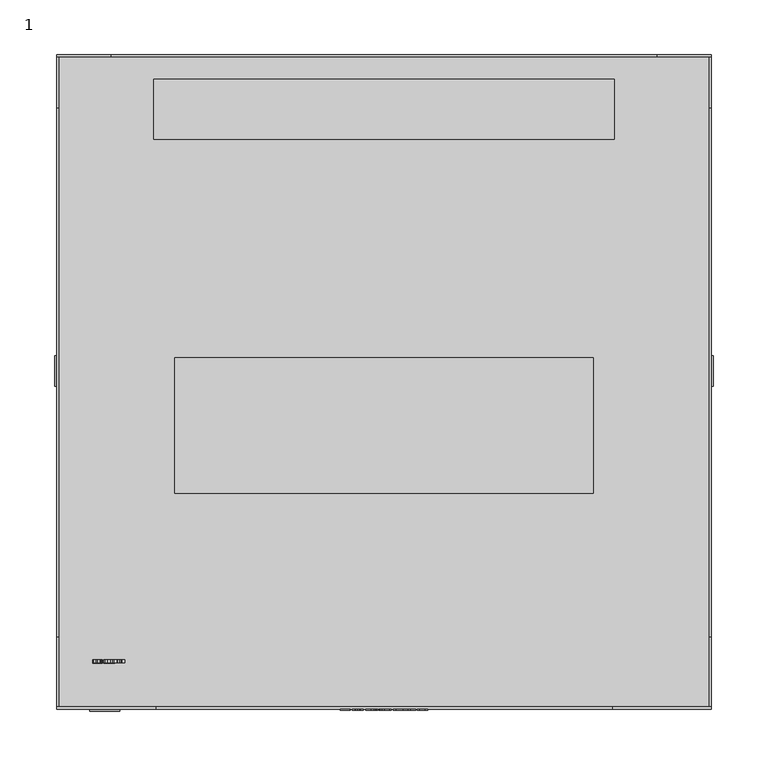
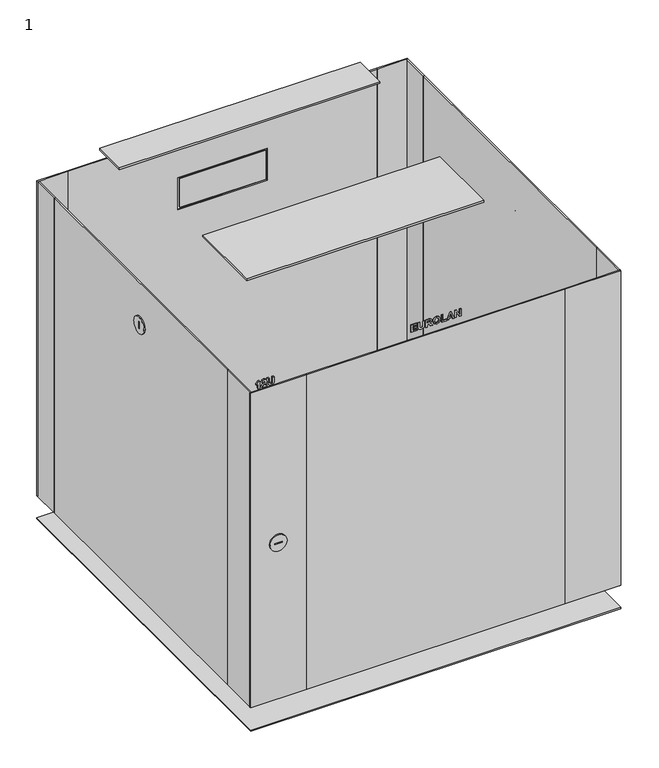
"""IFC4 building model written with IfcOpenShell, lengths in millimetres: proxy geometry, 1 : 12U 600мм стеклянная дверь."""

from ifc_helpers import new_model, si_unit, point, frame, frame_2d, origin, origin_with_axes, place, context, project, spatial, polyline, circle_curve, trimmed, segment, composite_curve, outline, extrude, source, transform, mapped, element, save


def proxy_1_fa444788(model_context):
    return source(origin(), model_context, "Body", "SweptSolid", [
        extrude(outline(polyline([(593.0, -40.3245382), (593.0, -30.9964522), (595.1376864, -30.9964522), (595.1376864, -37.9925167), (598.2470483, -37.9925167), (598.2470483, -31.5794576), (600.3847347, -31.5794576), (600.3847347, -37.9925167), (603.1054264, -37.9925167), (603.1054264, -31.1907874), (605.2431128, -31.1907874), (605.2431128, -40.3245382), (593.0, -40.3245382)])), frame((0.0, -301.0, 0.0), z_axis=(0.0, 1.0, 0.0), x_axis=(0.0, 0.0, 1.0)), (0.0, 0.0, 1.0), 1.0),
        extrude(outline(polyline([(605.2431128, -29.053101), (598.7207402, -29.053101), (595.6174512, -28.8071456), (594.2601418, -28.1026808), (593.2095176, -26.6482039), (592.8056649, -23.9487675), (593.1761162, -21.5575346), (594.173602, -20.0954664), (595.7085458, -19.3454543), (598.8209443, -19.1420097), (605.2431128, -19.1420097), (605.2431128, -21.4740312), (598.4960402, -21.4740312), (596.4236383, -21.5924541), (595.3714958, -22.2923642), (594.9433512, -24.0216432), (595.3973059, -25.7979877), (596.5982363, -26.6208755), (598.6387551, -26.7210795), (605.2431128, -26.7210795), (605.2431128, -29.053101)])), frame((0.0, -301.0, 0.0), z_axis=(0.0, 1.0, 0.0), x_axis=(0.0, 0.0, 1.0)), (0.0, 0.0, 1.0), 1.0),
        extrude(outline(polyline([(593.0, -16.8099882), (593.0, -14.4779667), (598.0527132, -13.9435451), (597.9251808, -12.6120459), (597.4560437, -11.8164865), (595.7966039, -10.4242575), (593.0, -8.6509495), (593.0, -5.9272213), (595.3745323, -7.424209), (597.3512849, -8.7238252), (598.3715443, -9.9475291), (599.5071902, -7.6625732), (601.7936644, -6.8988969), (603.7339791, -7.4272455), (604.9121358, -8.8361752), (605.2431128, -11.6601074), (605.2431128, -16.8099882), (593.0, -16.8099882)]), holes=[polyline([(600.1903996, -14.4779667), (603.1054264, -14.4779667), (603.1054264, -12.4495939), (603.0659521, -10.5548264), (602.6150339, -9.5770778), (601.6782779, -9.2309184), (600.817434, -9.4935744), (600.3315962, -10.2223312), (600.1903996, -12.5558709), (600.1903996, -14.4779667)])]), frame((0.0, -301.0, 0.0), z_axis=(0.0, 1.0, 0.0), x_axis=(0.0, 0.0, 1.0)), (0.0, 0.0, 1.0), 1.0),
        extrude(outline(polyline([(599.0456442, -4.9555457), (594.4681411, -3.3735363), (592.8056649, 0.8896905), (594.4757323, 5.1225524), (599.106374, 6.7045618), (603.7628257, 5.1104065), (605.4374479, 0.8593256), (604.9546466, -1.7338337), (603.8539203, -3.2869964), (602.1792981, -4.4059416), (599.0456442, -4.9555457)]), holes=[polyline([(599.1306659, -2.6235242), (602.2612832, -1.6579215), (603.2997616, 0.886654), (602.2734292, 3.4190836), (599.1640672, 4.3725403), (595.9985302, 3.3932735), (594.9433512, 0.886654), (596.0061214, -1.6321114), (599.1306659, -2.6235242)])]), frame((0.0, -301.0, 0.0), z_axis=(0.0, 1.0, 0.0), x_axis=(0.0, 0.0, 1.0)), (0.0, 0.0, 1.0), 1.0),
        extrude(outline(polyline([(593.0, 8.647913), (593.0, 17.1986585), (595.1376864, 17.1986585), (595.1376864, 10.9799345), (605.2431128, 10.9799345), (605.2431128, 8.647913), (593.0, 8.647913)])), frame((0.0, -301.0, 0.0), z_axis=(0.0, 1.0, 0.0), x_axis=(0.0, 0.0, 1.0)), (0.0, 0.0, 1.0), 1.0),
        extrude(outline(polyline([(593.0, 29.2474361), (605.2431128, 24.7352175), (605.2431128, 22.2513717), (593.0, 17.7816638), (593.0, 20.2655096), (595.7206917, 21.2128934), (595.7206917, 25.837462), (593.0, 26.7969917), (593.0, 29.2474361)]), holes=[polyline([(597.8583781, 25.0904864), (597.8583781, 21.959869), (602.3280859, 23.51455), (597.8583781, 25.0904864)])]), frame((0.0, -301.0, 0.0), z_axis=(0.0, 1.0, 0.0), x_axis=(0.0, 0.0, 1.0)), (0.0, 0.0, 1.0), 1.0),
        extrude(outline(polyline([(593.0, 30.4134469), (593.0, 32.7454684), (601.1195644, 32.7454684), (593.0, 37.8042546), (593.0, 40.3245382), (605.2431128, 40.3245382), (605.2431128, 37.9925167), (597.002089, 37.9925167), (605.2431128, 32.8578184), (605.2431128, 30.4134469), (593.0, 30.4134469)])), frame((0.0, -301.0, 0.0), z_axis=(0.0, 1.0, 0.0), x_axis=(0.0, 0.0, 1.0)), (0.0, 0.0, 1.0), 1.0),
        extrude(outline(composite_curve([segment(trimmed(circle_curve(frame_2d((9.997621, 508.4611412)), 14.0), [point((-4.002379, 508.4611412))], [point((23.997621, 508.4611412))], False, "CARTESIAN"), True, "CONTINUOUS"), segment(trimmed(circle_curve(frame_2d((9.997621, 508.4611412)), 14.0), [point((23.997621, 508.4611412))], [point((-4.002379, 508.4611412))], False, "CARTESIAN"), True, "CONTINUOUS")], self_intersect=False), holes=[polyline([(11.0, 514.5), (9.0, 514.5), (9.0, 502.5), (11.0, 502.5), (11.0, 514.5)])]), frame((-302.0, 0.0, 0.0), z_axis=(1.0, 0.0, 0.0), x_axis=(0.0, 1.0, 0.0)), (0.0, 0.0, 1.0), 2.0),
        extrude(outline(composite_curve([segment(trimmed(circle_curve(frame_2d((9.997621, 508.4611412)), 14.0), [point((-4.002379, 508.4611412))], [point((23.997621, 508.4611412))], False, "CARTESIAN"), True, "CONTINUOUS"), segment(trimmed(circle_curve(frame_2d((9.997621, 508.4611412)), 14.0), [point((23.997621, 508.4611412))], [point((-4.002379, 508.4611412))], False, "CARTESIAN"), True, "CONTINUOUS")], self_intersect=False), holes=[polyline([(11.0, 514.5), (9.0, 514.5), (9.0, 502.5), (11.0, 502.5), (11.0, 514.5)])]), frame((300.0, 0.0, 0.0), z_axis=(1.0, 0.0, 0.0), x_axis=(0.0, 1.0, 0.0)), (0.0, 0.0, 1.0), 2.0),
        extrude(outline(composite_curve([segment(trimmed(circle_curve(frame_2d((308.5, -256.0)), 13.7647373), [point((308.5, -242.2352627))], [point((308.5, -269.7647373))], False, "CARTESIAN"), True, "CONTINUOUS"), segment(trimmed(circle_curve(frame_2d((308.5, -256.0)), 13.7647373), [point((308.5, -269.7647373))], [point((308.5, -242.2352627))], False, "CARTESIAN"), True, "CONTINUOUS")], self_intersect=False), holes=[polyline([(309.5, -250.0), (307.5, -250.0), (307.5, -262.0), (309.5, -262.0), (309.5, -250.0)])]), frame((0.0, -302.0, 0.0), z_axis=(0.0, 1.0, 0.0), x_axis=(0.0, 0.0, 1.0)), (0.0, 0.0, 1.0), 2.0),
        extrude(outline(polyline([(300.0, 300.0), (300.0, -300.0), (-300.0, -300.0), (-300.0, 300.0), (300.0, 300.0)])), origin_with_axes(), (0.0, 0.0, 1.0), 2.0),
        extrude(outline(polyline([(211.0, 277.5), (211.0, 222.5), (-211.0, 222.5), (-211.0, 277.5), (211.0, 277.5)])), frame((0.0, 0.0, 613.9795778), z_axis=(0.0, 0.0, 1.0), x_axis=(1.0, 0.0, 0.0)), (0.0, 0.0, 1.0), 3.0204222),
        extrude(outline(polyline([(192.0, 22.0), (192.0, -102.0), (-192.0, -102.0), (-192.0, 22.0), (192.0, 22.0)])), frame((0.0, 0.0, 613.9795778), z_axis=(0.0, 0.0, 1.0), x_axis=(1.0, 0.0, 0.0)), (0.0, 0.0, 1.0), 3.0204222),
        extrude(outline(polyline([(-69.5, 300.0), (69.5, 300.0), (69.5, 298.0), (-69.5, 298.0), (-69.5, 300.0)])), frame((0.0, 0.0, 454.0), z_axis=(0.0, 0.0, 1.0), x_axis=(1.0, 0.0, 0.0)), (0.0, 0.0, 1.0), 49.0),
        extrude(outline(polyline([(579.0, -250.0), (40.0, -250.0), (40.0, 250.0), (579.0, 250.0), (579.0, -250.0)]), holes=[polyline([(506.0, -72.5), (506.0, 72.5), (451.0, 72.5), (451.0, -72.5), (506.0, -72.5)])]), frame((0.0, 298.0, 0.0), z_axis=(0.0, 1.0, 0.0), x_axis=(0.0, 0.0, 1.0)), (0.0, 0.0, 1.0), 2.0),
        extrude(outline(polyline([(-300.0, 300.0), (-250.0, 300.0), (-250.0, 298.0), (-300.0, 298.0), (-300.0, 300.0)])), frame((0.0, 0.0, 40.0), z_axis=(0.0, 0.0, 1.0), x_axis=(1.0, 0.0, 0.0)), (0.0, 0.0, 1.0), 539.0),
        extrude(outline(polyline([(250.0, 300.0), (300.0, 300.0), (300.0, 298.0), (250.0, 298.0), (250.0, 300.0)])), frame((0.0, 0.0, 40.0), z_axis=(0.0, 0.0, 1.0), x_axis=(1.0, 0.0, 0.0)), (0.0, 0.0, 1.0), 539.0),
        extrude(outline(polyline([(-209.0, -298.0), (209.0, -298.0), (209.0, -300.0), (-209.0, -300.0), (-209.0, -298.0)])), frame((0.0, 0.0, 40.0), z_axis=(0.0, 0.0, 1.0), x_axis=(1.0, 0.0, 0.0)), (0.0, 0.0, 1.0), 539.0),
        extrude(outline(polyline([(209.0, -298.0), (300.0, -298.0), (300.0, -300.0), (209.0, -300.0), (209.0, -298.0)])), frame((0.0, 0.0, 40.0), z_axis=(0.0, 0.0, 1.0), x_axis=(1.0, 0.0, 0.0)), (0.0, 0.0, 1.0), 539.0),
        extrude(outline(polyline([(-300.0, -298.0), (-209.0, -298.0), (-209.0, -300.0), (-300.0, -300.0), (-300.0, -298.0)])), frame((0.0, 0.0, 40.0), z_axis=(0.0, 0.0, 1.0), x_axis=(1.0, 0.0, 0.0)), (0.0, 0.0, 1.0), 539.0),
        extrude(outline(polyline([(-298.0, 250.8155315), (-298.0, -233.7095641), (-300.0, -233.7095641), (-300.0, 250.8155315), (-298.0, 250.8155315)])), frame((0.0, 0.0, 40.0), z_axis=(0.0, 0.0, 1.0), x_axis=(1.0, 0.0, 0.0)), (0.0, 0.0, 1.0), 539.0),
        extrude(outline(polyline([(-298.0, -233.7095641), (-298.0, -300.0), (-300.0, -300.0), (-300.0, -233.7095641), (-298.0, -233.7095641)])), frame((0.0, 0.0, 40.0), z_axis=(0.0, 0.0, 1.0), x_axis=(1.0, 0.0, 0.0)), (0.0, 0.0, 1.0), 539.0),
        extrude(outline(polyline([(-298.0, 300.0), (-298.0, 250.8155315), (-300.0, 250.8155315), (-300.0, 300.0), (-298.0, 300.0)])), frame((0.0, 0.0, 40.0), z_axis=(0.0, 0.0, 1.0), x_axis=(1.0, 0.0, 0.0)), (0.0, 0.0, 1.0), 539.0),
        extrude(outline(polyline([(300.0, 250.8155315), (300.0, -233.7095641), (298.0, -233.7095641), (298.0, 250.8155315), (300.0, 250.8155315)])), frame((0.0, 0.0, 40.0), z_axis=(0.0, 0.0, 1.0), x_axis=(1.0, 0.0, 0.0)), (0.0, 0.0, 1.0), 539.0),
        extrude(outline(polyline([(300.0, 300.0), (300.0, 250.8155315), (298.0, 250.8155315), (298.0, 300.0), (300.0, 300.0)])), frame((0.0, 0.0, 40.0), z_axis=(0.0, 0.0, 1.0), x_axis=(1.0, 0.0, 0.0)), (0.0, 0.0, 1.0), 539.0),
        extrude(outline(polyline([(300.0, -233.7095641), (300.0, -300.0), (298.0, -300.0), (298.0, -233.7095641), (300.0, -233.7095641)])), frame((0.0, 0.0, 40.0), z_axis=(0.0, 0.0, 1.0), x_axis=(1.0, 0.0, 0.0)), (0.0, 0.0, 1.0), 539.0),
        extrude(outline(polyline([(547.6333267, -260.6030776), (559.8764395, -260.6030776), (559.8764395, -262.4614073), (557.9103146, -263.9037383), (556.7670775, -265.850126), (554.435056, -265.850126), (556.3844802, -262.9350991), (547.6333267, -262.9350991), (547.6333267, -260.6030776)])), frame((0.0, -257.6777479, 0.0), z_axis=(0.0, 1.0, 0.0), x_axis=(0.0, 0.0, 1.0)), (0.0, 0.0, 1.0), 3.0),
        extrude(outline(polyline([(549.9653481, -249.3316405), (550.6030103, -253.2395983), (551.9299548, -251.9080991), (553.4603439, -250.4581769), (554.9937695, -249.6018877), (556.5363045, -249.3316405), (558.918428, -250.3184985), (559.8764395, -253.0331173), (559.0216686, -255.6596779), (556.202291, -256.9107103), (555.989737, -254.5786888), (557.3333822, -254.1292888), (557.7387531, -253.0847375), (557.3273092, -252.0417045), (556.1476343, -251.6636619), (554.7447776, -252.1130619), (552.7892804, -253.9167348), (549.9213191, -256.3611063), (547.6333267, -257.1050454), (547.6333267, -249.3316405), (549.9653481, -249.3316405)])), frame((0.0, -257.6777479, 0.0), z_axis=(0.0, 1.0, 0.0), x_axis=(0.0, 0.0, 1.0)), (0.0, 0.0, 1.0), 3.0),
        extrude(outline(polyline([(559.8764395, -247.3882892), (553.3540669, -247.3882892), (550.2507779, -247.1423338), (548.8934685, -246.437869), (547.8428442, -244.9833921), (547.4389915, -242.2839557), (547.8094429, -239.8927228), (548.8069286, -238.4306546), (550.3418725, -237.6806425), (553.4542709, -237.4771979), (559.8764395, -237.4771979), (559.8764395, -239.8092194), (553.1293669, -239.8092194), (551.056965, -239.9276424), (550.0048225, -240.6275524), (549.5766779, -242.3568314), (550.0306326, -244.1331759), (551.2315629, -244.9560637), (553.2720817, -245.0562677), (559.8764395, -245.0562677), (559.8764395, -247.3882892)])), frame((0.0, -257.6777479, 0.0), z_axis=(0.0, 1.0, 0.0), x_axis=(0.0, 0.0, 1.0)), (0.0, 0.0, 1.0), 3.0),
        extrude(outline(polyline([(501.1786301, -260.6030776), (513.4217429, -260.6030776), (513.4217429, -262.4614073), (511.455618, -263.9037383), (510.3123809, -265.850126), (507.9803594, -265.850126), (509.9297836, -262.9350991), (501.1786301, -262.9350991), (501.1786301, -260.6030776)])), frame((0.0, -257.6777479, 0.0), z_axis=(0.0, 1.0, 0.0), x_axis=(0.0, 0.0, 1.0)), (0.0, 0.0, 1.0), 3.0),
        extrude(outline(polyline([(501.1786301, -251.2749917), (513.4217429, -251.2749917), (513.4217429, -253.1333213), (511.455618, -254.5756523), (510.3123809, -256.52204), (507.9803594, -256.52204), (509.9297836, -253.6070132), (501.1786301, -253.6070132), (501.1786301, -251.2749917)])), frame((0.0, -257.6777479, 0.0), z_axis=(0.0, 1.0, 0.0), x_axis=(0.0, 0.0, 1.0)), (0.0, 0.0, 1.0), 3.0),
        extrude(outline(polyline([(513.4217429, -247.3882892), (506.8993703, -247.3882892), (503.7960813, -247.1423338), (502.4387719, -246.437869), (501.3881476, -244.9833921), (500.9842949, -242.2839557), (501.3547463, -239.8927228), (502.352232, -238.4306546), (503.8871758, -237.6806425), (506.9995743, -237.4771979), (513.4217429, -237.4771979), (513.4217429, -239.8092194), (506.6746703, -239.8092194), (504.6022684, -239.9276424), (503.5501259, -240.6275524), (503.1219813, -242.3568314), (503.575936, -244.1331759), (504.7768663, -244.9560637), (506.8173851, -245.0562677), (513.4217429, -245.0562677), (513.4217429, -247.3882892)])), frame((0.0, -257.6777479, 0.0), z_axis=(0.0, 1.0, 0.0), x_axis=(0.0, 0.0, 1.0)), (0.0, 0.0, 1.0), 3.0),
        extrude(outline(polyline([(457.3261317, -260.6030776), (469.5692445, -260.6030776), (469.5692445, -262.4614073), (467.6031196, -263.9037383), (466.4598825, -265.850126), (464.127861, -265.850126), (466.0772852, -262.9350991), (457.3261317, -262.9350991), (457.3261317, -260.6030776)])), frame((0.0, -257.6777479, 0.0), z_axis=(0.0, 1.0, 0.0), x_axis=(0.0, 0.0, 1.0)), (0.0, 0.0, 1.0), 3.0),
        extrude(outline(polyline([(469.5692445, -253.2183429), (468.3242851, -255.9299252), (463.3717759, -257.1050454), (458.4982154, -256.034684), (457.1317966, -253.2183429), (458.3767559, -250.5067607), (463.347484, -249.3316405), (468.3060662, -250.5006877), (469.5692445, -253.2183429)]), holes=[polyline([(467.4315581, -253.2183429), (467.174975, -252.4455572), (466.1531974, -251.8853254), (463.347484, -251.6636619), (460.4476396, -251.9126538), (459.526066, -252.4410024), (459.2694829, -253.2183429), (459.5230295, -253.9911287), (460.5402524, -254.5513604), (463.347484, -254.7730239), (466.2534014, -254.524032), (467.174975, -253.9956834), (467.4315581, -253.2183429)])]), frame((0.0, -257.6777479, 0.0), z_axis=(0.0, 1.0, 0.0), x_axis=(0.0, 0.0, 1.0)), (0.0, 0.0, 1.0), 3.0),
        extrude(outline(polyline([(469.5692445, -247.3882892), (463.0468719, -247.3882892), (459.9435829, -247.1423338), (458.5862735, -246.437869), (457.5356492, -244.9833921), (457.1317966, -242.2839557), (457.5022479, -239.8927228), (458.4997336, -238.4306546), (460.0346775, -237.6806425), (463.1470759, -237.4771979), (469.5692445, -237.4771979), (469.5692445, -239.8092194), (462.8221719, -239.8092194), (460.74977, -239.9276424), (459.6976275, -240.6275524), (459.2694829, -242.3568314), (459.7234376, -244.1331759), (460.924368, -244.9560637), (462.9648868, -245.0562677), (469.5692445, -245.0562677), (469.5692445, -247.3882892)])), frame((0.0, -257.6777479, 0.0), z_axis=(0.0, 1.0, 0.0), x_axis=(0.0, 0.0, 1.0)), (0.0, 0.0, 1.0), 3.0),
        extrude(outline(polyline([(416.2414631, -266.2387962), (413.8062011, -265.1547706), (412.9924228, -262.9381356), (414.4696734, -259.8469925), (419.2870589, -258.6597264), (423.9981674, -259.7953723), (425.4298707, -262.7012897), (424.3169985, -265.3809888), (421.3852709, -266.4331314), (418.550711, -265.4083172), (417.4621306, -262.971537), (418.476317, -260.8065222), (415.7753625, -261.4290019), (415.1301091, -262.6071586), (415.4641226, -263.4922944), (416.490455, -263.9067747), (416.2414631, -266.2387962)]), holes=[polyline([(421.3306142, -260.9917479), (420.0385892, -261.4365931), (419.599817, -262.5312464), (420.0568082, -263.6517099), (421.4885115, -264.1011099), (422.8701127, -263.6881477), (423.2921843, -262.6496694), (422.7774999, -261.4927681), (421.3306142, -260.9917479)])]), frame((0.0, -257.6777479, 0.0), z_axis=(0.0, 1.0, 0.0), x_axis=(0.0, 0.0, 1.0)), (0.0, 0.0, 1.0), 3.0),
        extrude(outline(polyline([(425.4298707, -256.7163752), (418.9074981, -256.7163752), (415.8042091, -256.4704198), (414.4468997, -255.7659549), (413.3962754, -254.311478), (412.9924228, -251.6120417), (413.3628741, -249.2208087), (414.3603599, -247.7587405), (415.8953037, -247.0087284), (419.0077021, -246.8052838), (425.4298707, -246.8052838), (425.4298707, -249.1373053), (418.6827981, -249.1373053), (416.6103962, -249.2557283), (415.5582537, -249.9556384), (415.1301091, -251.6849173), (415.5840638, -253.4612618), (416.7849942, -254.2841496), (418.825513, -254.3843537), (425.4298707, -254.3843537), (425.4298707, -256.7163752)])), frame((0.0, -257.6777479, 0.0), z_axis=(0.0, 1.0, 0.0), x_axis=(0.0, 0.0, 1.0)), (0.0, 0.0, 1.0), 3.0),
        extrude(outline(polyline([(376.4962498, -264.3865396), (375.2254803, -265.9397023), (373.4172527, -266.4331314), (370.6024299, -265.1669166), (369.7339948, -262.4826627), (370.784619, -259.7042777), (373.5174567, -258.6597264), (375.3120201, -259.1865568), (376.4962498, -260.7245371), (377.508918, -259.3444541), (379.0226064, -258.8540615), (381.280234, -259.8227007), (382.1714427, -262.5464289), (381.280234, -265.2777483), (379.0226064, -266.2387962), (377.5499105, -265.7985057), (376.4962498, -264.3865396)]), holes=[polyline([(378.8798915, -263.9067747), (380.000355, -263.5332869), (380.4224266, -262.5312464), (380.0033915, -261.5550161), (378.889001, -261.186083), (377.7320997, -261.5595708), (377.3130646, -262.5555383), (377.727545, -263.5378417), (378.8798915, -263.9067747)]), polyline([(373.6146243, -264.1011099), (374.94916, -263.7169943), (375.5640485, -262.5494654), (375.0220357, -261.4320384), (373.5872959, -260.9917479), (372.0250237, -261.4244472), (371.4830109, -262.5191005), (372.0462791, -263.6486734), (373.6146243, -264.1011099)])]), frame((0.0, -257.6777479, 0.0), z_axis=(0.0, 1.0, 0.0), x_axis=(0.0, 0.0, 1.0)), (0.0, 0.0, 1.0), 3.0),
        extrude(outline(polyline([(382.1714427, -256.7163752), (375.6490701, -256.7163752), (372.5457811, -256.4704198), (371.1884717, -255.7659549), (370.1378475, -254.311478), (369.7339948, -251.6120417), (370.1044461, -249.2208087), (371.1019319, -247.7587405), (372.6368757, -247.0087284), (375.7492742, -246.8052838), (382.1714427, -246.8052838), (382.1714427, -249.1373053), (375.4243701, -249.1373053), (373.3519682, -249.2557283), (372.2998257, -249.9556384), (371.8716811, -251.6849173), (372.3256358, -253.4612618), (373.5265662, -254.2841496), (375.567085, -254.3843537), (382.1714427, -254.3843537), (382.1714427, -256.7163752)])), frame((0.0, -257.6777479, 0.0), z_axis=(0.0, 1.0, 0.0), x_axis=(0.0, 0.0, 1.0)), (0.0, 0.0, 1.0), 3.0),
        extrude(outline(polyline([(334.6450861, -266.4331314), (334.6450861, -261.3257614), (330.0129262, -264.008497), (324.9283299, -265.0727855), (324.9283299, -262.740764), (328.5812229, -262.2154519), (332.440597, -260.6622891), (335.2280915, -258.6597264), (336.9771076, -258.6597264), (336.9771076, -266.4331314), (334.6450861, -266.4331314)])), frame((0.0, -257.6777479, 0.0), z_axis=(0.0, 1.0, 0.0), x_axis=(0.0, 0.0, 1.0)), (0.0, 0.0, 1.0), 3.0),
        extrude(outline(polyline([(337.1714427, -256.7163752), (330.6490701, -256.7163752), (327.5457811, -256.4704198), (326.1884717, -255.7659549), (325.1378475, -254.311478), (324.7339948, -251.6120417), (325.1044461, -249.2208087), (326.1019319, -247.7587405), (327.6368757, -247.0087284), (330.7492742, -246.8052838), (337.1714427, -246.8052838), (337.1714427, -249.1373053), (330.4243701, -249.1373053), (328.3519682, -249.2557283), (327.2998257, -249.9556384), (326.8716811, -251.6849173), (327.3256358, -253.4612618), (328.5265662, -254.2841496), (330.567085, -254.3843537), (337.1714427, -254.3843537), (337.1714427, -256.7163752)])), frame((0.0, -257.6777479, 0.0), z_axis=(0.0, 1.0, 0.0), x_axis=(0.0, 0.0, 1.0)), (0.0, 0.0, 1.0), 3.0),
        extrude(outline(polyline([(287.6111434, -258.8540615), (290.0281866, -259.9654155), (290.8601838, -262.1668681), (289.381415, -265.2473834), (284.5534017, -266.4331314), (279.8559574, -265.2974855), (278.4227359, -262.4006775), (279.5325716, -259.7073142), (282.4764451, -258.6597264), (285.2973409, -259.6845405), (286.390476, -262.1486492), (285.3671801, -264.2802626), (288.0772441, -263.6638558), (288.7224974, -262.4674802), (288.3900022, -261.5990451), (287.3621516, -261.186083), (287.6111434, -258.8540615)]), holes=[polyline([(282.5280654, -264.1011099), (283.8155356, -263.6532281), (284.2527896, -262.5585748), (283.7957984, -261.4396296), (282.3549856, -260.9917479), (280.9794573, -261.4077465), (280.5604222, -262.4462248), (281.0720702, -263.5970531), (282.5280654, -264.1011099)])]), frame((0.0, -257.6777479, 0.0), z_axis=(0.0, 1.0, 0.0), x_axis=(0.0, 0.0, 1.0)), (0.0, 0.0, 1.0), 3.0),
        extrude(outline(polyline([(290.8601838, -256.7163752), (284.3378112, -256.7163752), (281.2345222, -256.4704198), (279.8772128, -255.7659549), (278.8265886, -254.311478), (278.4227359, -251.6120417), (278.7931872, -249.2208087), (279.790673, -247.7587405), (281.3256168, -247.0087284), (284.4380153, -246.8052838), (290.8601838, -246.8052838), (290.8601838, -249.1373053), (284.1131112, -249.1373053), (282.0407093, -249.2557283), (280.9885668, -249.9556384), (280.5604222, -251.6849173), (281.0143769, -253.4612618), (282.2153073, -254.2841496), (284.2558261, -254.3843537), (290.8601838, -254.3843537), (290.8601838, -256.7163752)])), frame((0.0, -257.6777479, 0.0), z_axis=(0.0, 1.0, 0.0), x_axis=(0.0, 0.0, 1.0)), (0.0, 0.0, 1.0), 3.0),
        extrude(outline(polyline([(237.3503584, -266.4331314), (234.6964693, -265.1957632), (233.7096113, -262.522137), (235.2825112, -259.312571), (237.9029989, -258.4653913), (240.7679237, -259.4826142), (241.8716865, -261.960387), (241.3949581, -263.4634477), (243.6207026, -262.9927924), (243.6207026, -259.0483966), (245.9527241, -259.0483966), (245.9527241, -264.8784504), (239.0629366, -266.2387962), (238.7623245, -264.2164963), (239.7340001, -262.509991), (239.2633447, -261.2726229), (237.8513786, -260.7974128), (236.3467996, -261.3090607), (235.8472976, -262.5585748), (236.317953, -263.7002937), (237.5963138, -264.295445), (237.3503584, -266.4331314)])), frame((0.0, -257.6777479, 0.0), z_axis=(0.0, 1.0, 0.0), x_axis=(0.0, 0.0, 1.0)), (0.0, 0.0, 1.0), 3.0),
        extrude(outline(polyline([(246.1470592, -256.7163752), (239.6246866, -256.7163752), (236.5213976, -256.4704198), (235.1640882, -255.7659549), (234.113464, -254.311478), (233.7096113, -251.6120417), (234.0800626, -249.2208087), (235.0775484, -247.7587405), (236.6124922, -247.0087284), (239.7248907, -246.8052838), (246.1470592, -246.8052838), (246.1470592, -249.1373053), (239.3999866, -249.1373053), (237.3275847, -249.2557283), (236.2754422, -249.9556384), (235.8472976, -251.6849173), (236.3012523, -253.4612618), (237.5021827, -254.2841496), (239.5427015, -254.3843537), (246.1470592, -254.3843537), (246.1470592, -256.7163752)])), frame((0.0, -257.6777479, 0.0), z_axis=(0.0, 1.0, 0.0), x_axis=(0.0, 0.0, 1.0)), (0.0, 0.0, 1.0), 3.0),
        extrude(outline(polyline([(189.9283299, -262.1577586), (189.9283299, -259.8257371), (192.4546865, -259.8257371), (192.4546865, -258.2710562), (194.3980377, -258.2710562), (194.3980377, -259.8257371), (201.9771076, -259.8257371), (201.9771076, -261.848037), (194.3889283, -266.8218016), (192.4546865, -266.8218016), (192.4546865, -262.1577586), (189.9283299, -262.1577586)]), holes=[polyline([(194.3980377, -262.1577586), (194.3980377, -264.7630639), (198.3758348, -262.1577586), (194.3980377, -262.1577586)])]), frame((0.0, -257.6777479, 0.0), z_axis=(0.0, 1.0, 0.0), x_axis=(0.0, 0.0, 1.0)), (0.0, 0.0, 1.0), 3.0),
        extrude(outline(polyline([(202.1714427, -256.7163752), (195.6490701, -256.7163752), (192.5457811, -256.4704198), (191.1884717, -255.7659549), (190.1378475, -254.311478), (189.7339948, -251.6120417), (190.1044461, -249.2208087), (191.1019319, -247.7587405), (192.6368757, -247.0087284), (195.7492742, -246.8052838), (202.1714427, -246.8052838), (202.1714427, -249.1373053), (195.4243701, -249.1373053), (193.3519682, -249.2557283), (192.2998257, -249.9556384), (191.8716811, -251.6849173), (192.3256358, -253.4612618), (193.5265662, -254.2841496), (195.567085, -254.3843537), (202.1714427, -254.3843537), (202.1714427, -256.7163752)])), frame((0.0, -257.6777479, 0.0), z_axis=(0.0, 1.0, 0.0), x_axis=(0.0, 0.0, 1.0)), (0.0, 0.0, 1.0), 3.0),
        extrude(outline(polyline([(148.35045, -266.4331314), (145.734517, -265.2200551), (144.7339948, -262.5859032), (145.859013, -259.7847446), (148.5781864, -258.6597264), (150.4562532, -259.294352), (151.4567755, -260.9887114), (154.0286794, -259.2427318), (156.0691982, -260.0565101), (157.1714427, -262.6739613), (156.773663, -264.3971673), (155.6820462, -265.5965794), (153.8282713, -266.2387962), (153.4790753, -263.9067747), (154.6374949, -263.4892579), (155.0337563, -262.6587789), (154.6921516, -261.8708107), (153.776651, -261.5747533), (152.6956619, -261.9710147), (152.3130646, -263.1203248), (150.3909688, -263.3237694), (150.5640485, -262.397641), (150.0812472, -261.4001553), (148.7725216, -260.9917479), (147.3863656, -261.4381114), (146.8716811, -262.5403559), (147.3210811, -263.5757977), (148.6206973, -264.1011099), (148.35045, -266.4331314)])), frame((0.0, -257.6777479, 0.0), z_axis=(0.0, 1.0, 0.0), x_axis=(0.0, 0.0, 1.0)), (0.0, 0.0, 1.0), 3.0),
        extrude(outline(polyline([(157.1714427, -256.7163752), (150.6490701, -256.7163752), (147.5457811, -256.4704198), (146.1884717, -255.7659549), (145.1378475, -254.311478), (144.7339948, -251.6120417), (145.1044461, -249.2208087), (146.1019319, -247.7587405), (147.6368757, -247.0087284), (150.7492742, -246.8052838), (157.1714427, -246.8052838), (157.1714427, -249.1373053), (150.4243701, -249.1373053), (148.3519682, -249.2557283), (147.2998257, -249.9556384), (146.8716811, -251.6849173), (147.3256358, -253.4612618), (148.5265662, -254.2841496), (150.567085, -254.3843537), (157.1714427, -254.3843537), (157.1714427, -256.7163752)])), frame((0.0, -257.6777479, 0.0), z_axis=(0.0, 1.0, 0.0), x_axis=(0.0, 0.0, 1.0)), (0.0, 0.0, 1.0), 3.0),
        extrude(outline(polyline([(103.3014708, -258.8246798), (103.9391329, -262.7326376), (105.2660774, -261.4011384), (106.7964665, -259.9512162), (108.3298921, -259.094927), (109.8724272, -258.8246798), (112.2545507, -259.8115378), (113.2125621, -262.5261566), (112.3577912, -265.1527172), (109.5384137, -266.4037496), (109.3258596, -264.0717281), (110.6695048, -263.6223281), (111.0748758, -262.5777768), (110.6634319, -261.5347438), (109.4837569, -261.1567012), (108.0809003, -261.6061012), (106.1254031, -263.4097741), (103.2574418, -265.8541456), (100.9694493, -266.5980847), (100.9694493, -258.8246798), (103.3014708, -258.8246798)])), frame((0.0, -257.6777479, 0.0), z_axis=(0.0, 1.0, 0.0), x_axis=(0.0, 0.0, 1.0)), (0.0, 0.0, 1.0), 3.0),
        extrude(outline(polyline([(113.2125621, -256.8813285), (106.6901895, -256.8813285), (103.5869005, -256.6353731), (102.2295911, -255.9309083), (101.1789669, -254.4764314), (100.7751142, -251.776995), (101.1455655, -249.3857621), (102.1430513, -247.9236939), (103.6779951, -247.1736818), (106.7903936, -246.9702372), (113.2125621, -246.9702372), (113.2125621, -249.3022587), (106.4654895, -249.3022587), (104.3930876, -249.4206817), (103.3409451, -250.1205917), (102.9128006, -251.8498707), (103.3667553, -253.6262152), (104.5676856, -254.449103), (106.6082044, -254.549307), (113.2125621, -254.549307), (113.2125621, -256.8813285)])), frame((0.0, -257.6777479, 0.0), z_axis=(0.0, 1.0, 0.0), x_axis=(0.0, 0.0, 1.0)), (0.0, 0.0, 1.0), 3.0),
        extrude(outline(polyline([(59.9283299, -260.6030776), (72.1714427, -260.6030776), (72.1714427, -262.4614073), (70.2053178, -263.9037383), (69.0620807, -265.850126), (66.7300592, -265.850126), (68.6794834, -262.9350991), (59.9283299, -262.9350991), (59.9283299, -260.6030776)])), frame((0.0, -257.6777479, 0.0), z_axis=(0.0, 1.0, 0.0), x_axis=(0.0, 0.0, 1.0)), (0.0, 0.0, 1.0), 3.0),
        extrude(outline(polyline([(72.1714427, -256.7163752), (65.6490701, -256.7163752), (62.5457811, -256.4704198), (61.1884717, -255.7659549), (60.1378475, -254.311478), (59.7339948, -251.6120417), (60.1044461, -249.2208087), (61.1019319, -247.7587405), (62.6368757, -247.0087284), (65.7492742, -246.8052838), (72.1714427, -246.8052838), (72.1714427, -249.1373053), (65.4243701, -249.1373053), (63.3519682, -249.2557283), (62.2998257, -249.9556384), (61.8716811, -251.6849173), (62.3256358, -253.4612618), (63.5265662, -254.2841496), (65.567085, -254.3843537), (72.1714427, -254.3843537), (72.1714427, -256.7163752)])), frame((0.0, -257.6777479, 0.0), z_axis=(0.0, 1.0, 0.0), x_axis=(0.0, 0.0, 1.0)), (0.0, 0.0, 1.0), 3.0),
    ])


if __name__ == "__main__":
    model = new_model("IFC4")
    model_context = context("Model", 3, world=origin())
    ifc_project = project(units=[si_unit("LENGTHUNIT", "METRE", prefix="MILLI")], contexts=[model_context])
    site = spatial("IfcSite", under=ifc_project)
    building = spatial("IfcBuilding", under=site)
    placement = place(None, origin())
    proxy_1_shape = proxy_1_fa444788(model_context)
    element("IfcBuildingElementProxy", 1, Name="1 : 12U 600мм стеклянная дверь", ObjectType="1 : 12U 600мм стеклянная дверь", at=placement, inside=building, context=model_context, shape_type="MappedRepresentation", body=[
        mapped(proxy_1_shape, transform((0.0, 0.0, 0.0), x_axis=(1.0, 0.0, 0.0), y_axis=(0.0, 1.0, 0.0), z_axis=(0.0, 0.0, 1.0))),
    ])
    save(model, "model.ifc")
